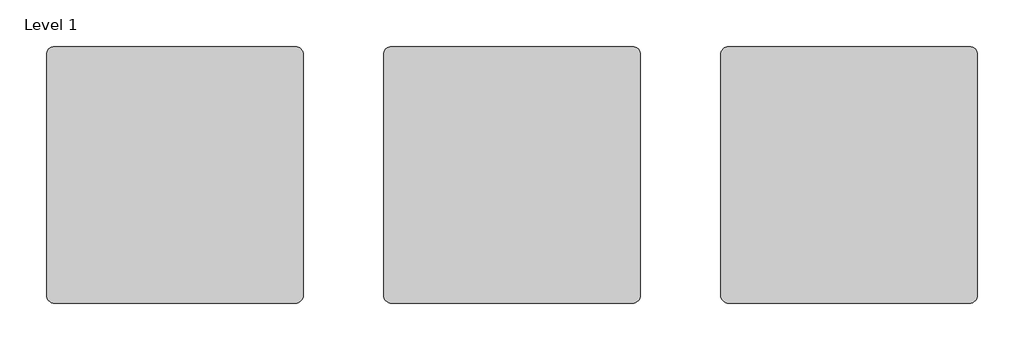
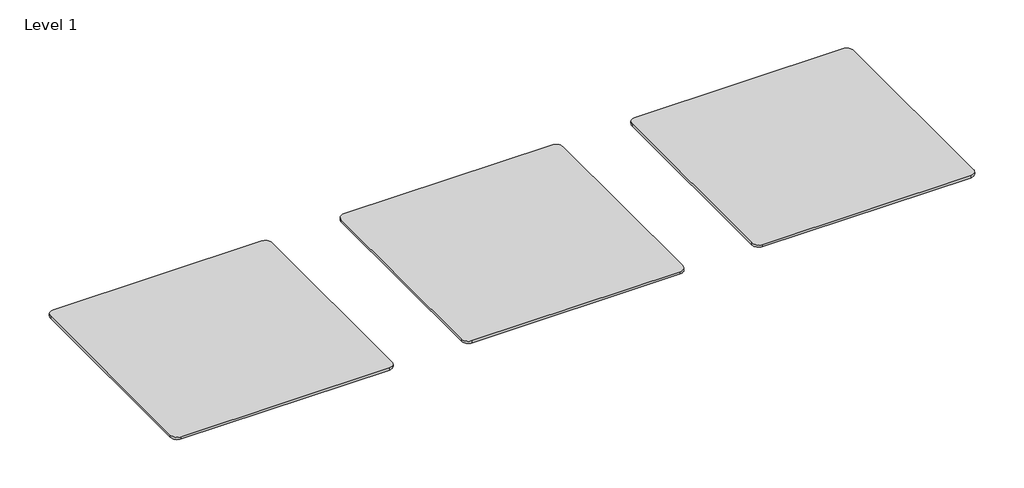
# One storey: 3 proxies.
"""IFC4 building model written with IfcOpenShell, lengths in millimetres."""

from ifc_helpers import new_model, si_unit, origin, place, context, project, spatial, transform, mapped, element, save
from components import materialsample_type_1_aebe469f

model = new_model("IFC4")

# Units and contexts
model_context = context("Model", 3, world=origin())
ifc_project = project(units=[si_unit("LENGTHUNIT", "METRE", prefix="MILLI")], contexts=[model_context])

# Site, building, storey
site = spatial("IfcSite", under=ifc_project)
building = spatial("IfcBuilding", under=site)
storey = spatial("IfcBuildingStorey", under=building, Name="Level 1", Elevation=0.0)

# Proxies
placement = place(None, origin())
materialsample_type_1_shape = materialsample_type_1_aebe469f(model_context)
element("IfcBuildingElementProxy", 1, Name="MaterialSample : Type 1", ObjectType="MaterialSample : Type 1", at=placement, inside=storey, context=model_context, shape_type="MappedRepresentation", body=[
    mapped(materialsample_type_1_shape, transform((100.8, 0.0, 0.0), x_axis=(1.0, 0.0, 0.0), y_axis=(0.0, 1.0, 0.0), z_axis=(0.0, 0.0, 1.0))),
])
element("IfcBuildingElementProxy", 2, Name="MaterialSample : Type 1", ObjectType="MaterialSample : Type 1", at=placement, inside=storey, context=model_context, shape_type="MappedRepresentation", body=[
    mapped(materialsample_type_1_shape, transform((3301.2, 0.0, 0.0), x_axis=(1.0, 0.0, 0.0), y_axis=(0.0, 1.0, 0.0), z_axis=(0.0, 0.0, 1.0))),
])
element("IfcBuildingElementProxy", 3, Name="MaterialSample : Type 1", ObjectType="MaterialSample : Type 1", at=placement, inside=storey, context=model_context, shape_type="MappedRepresentation", body=[
    mapped(materialsample_type_1_shape, transform((6501.6, 0.0, 0.0), x_axis=(1.0, 0.0, 0.0), y_axis=(0.0, 1.0, 0.0), z_axis=(0.0, 0.0, 1.0))),
])

save(model, "model.ifc")
